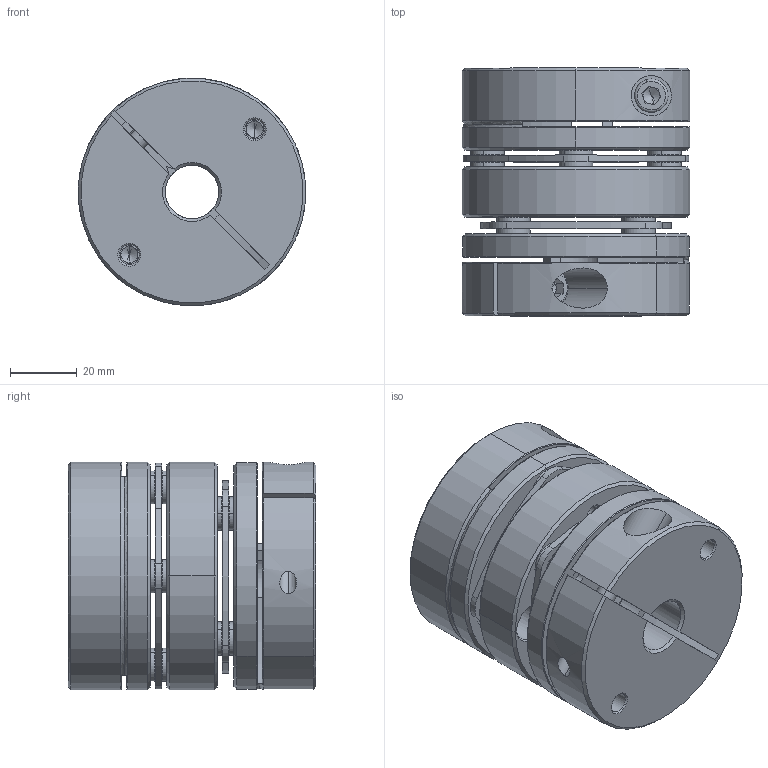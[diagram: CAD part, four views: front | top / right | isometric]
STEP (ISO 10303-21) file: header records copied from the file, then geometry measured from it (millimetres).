
FILE_DESCRIPTION (( 'STEP AP203' ), '1' );
FILE_NAME ('LD2-D68-16-16.STEP', '2021-10-26T08:16:38', ( '' ), ( '' ), 'SwSTEP 2.0', 'SolidWorks 2018', '' );
FILE_SCHEMA (( 'CONFIG_CONTROL_DESIGN' ));
Length unit declared in the file: millimetre
Products named in the file (2): LD2-D68-16-16; 錨璃102^LD2-D68
Assembly tree (1 placements, depth 2):
  LD2-D68-16-16
    錨璃102^LD2-D68
Bounding box: 68 x 74 x 68 mm (x, y, z)
Volume: 194870.8 mm3; surface area: 65134.2 mm2
Topology: 1 solids, 27 shells, 736 faces, 1728 edges, 1052 vertices
Faces by surface type: cylinder 256, cone 226, plane 224, torus 30
Entity records: 21710 total; most frequent: DIRECTION 4034, CARTESIAN_POINT 3962, ORIENTED_EDGE 3408, EDGE_CURVE 1704, AXIS2_PLACEMENT_3D 1636, VERTEX_POINT 1052, CIRCLE 896, EDGE_LOOP 872
